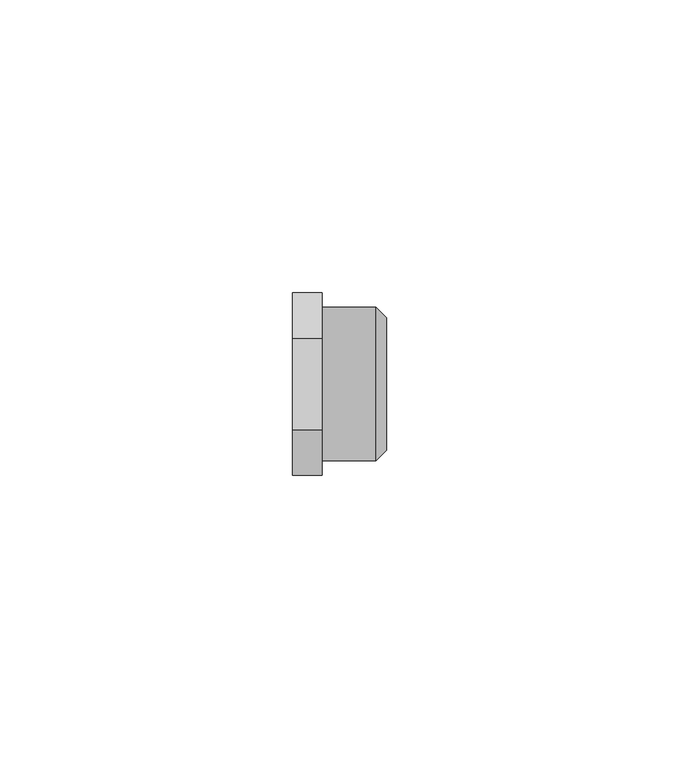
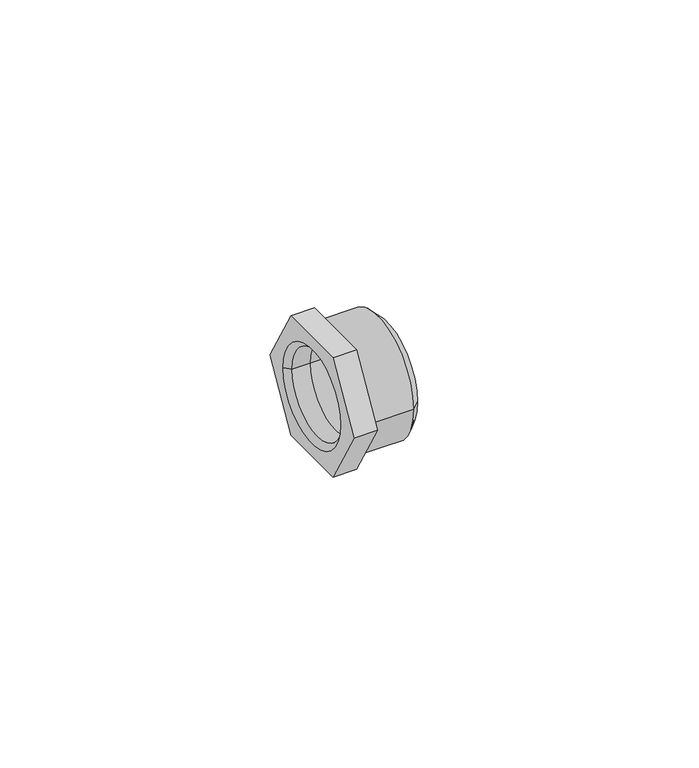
"""IFC4 building model written with IfcOpenShell, lengths in millimetres: pipe fitting geometry, Astra - Redução Hexagonal - RH : Astra - Redução Hexagonal - RH."""

from ifc_helpers import new_model, si_unit, frame, origin, place, context, project, spatial, polyline, circle_curve, source, transform, mapped, element, save
from ifc_brep_helpers import plane_surface, cylinder_surface, revolved_surface, advanced_brep


def pipe_fitting_a693b1bf(model_context):
    return source(origin(), model_context, "Body", "AdvancedBrep", [
        advanced_brep(
        [(5.05, -15.5884573, 0.0), (5.05, -7.7942286, -13.5), (5.05, 7.7942286, -13.5), (5.05, 15.5884573, 0.0), (5.05, 7.7942286, 13.5), (5.05, -7.7942286, 13.5), (5.05, 13.075, 0.0), (5.05, -13.075, 0.0), (0.0, -15.5884573, 0.0), (0.0, -7.7942286, 13.5), (0.0, 7.7942286, 13.5), (0.0, 15.5884573, 0.0), (0.0, 7.7942286, -13.5), (0.0, -7.7942286, -13.5), (0.0, -10.65, 0.0), (0.0, 10.65, 0.0), (1.2, -9.45, 0.0), (5.05, -9.45, 0.0), (5.05, 9.45, 0.0), (1.2, 9.45, 0.0), (14.2748382, -13.075, 0.0), (14.2748382, 13.075, 0.0), (16.05, 11.2998382, 0.0), (16.05, -11.2998382, 0.0), (16.05, -9.45, 0.0), (16.05, 9.45, 0.0)],
        [
            (0, 1),
            (1, 2),
            (2, 3),
            (3, 4),
            (4, 5),
            (5, 0),
            (6, 7, circle_curve(frame((5.05, 0.0, 0.0), z_axis=(-1.0, 0.0, 0.0), x_axis=(0.0, 1.0, 0.0)), 13.075)),
            (7, 6, circle_curve(frame((5.05, 0.0, 0.0), z_axis=(-1.0, 0.0, 0.0), x_axis=(0.0, 1.0, 0.0)), 13.075)),
            (8, 9),
            (9, 10),
            (10, 11),
            (11, 12),
            (12, 13),
            (13, 8),
            (14, 15, circle_curve(frame((0.0, 0.0, 0.0), z_axis=(1.0, 0.0, 0.0), x_axis=(0.0, 1.0, 0.0)), 10.65)),
            (15, 14, circle_curve(frame((0.0, 0.0, 0.0), z_axis=(1.0, 0.0, 0.0), x_axis=(0.0, 1.0, 0.0)), 10.65)),
            (0, 8),
            (13, 1),
            (12, 2),
            (11, 3),
            (10, 4),
            (9, 5),
            (16, 17),
            (17, 18, circle_curve(frame((5.05, 0.0, 0.0), z_axis=(1.0, 0.0, 0.0), x_axis=(0.0, 1.0, 0.0)), 9.45)),
            (18, 19),
            (19, 16, circle_curve(frame((1.2, 0.0, 0.0), z_axis=(-1.0, 0.0, 0.0), x_axis=(0.0, 1.0, 0.0)), 9.45)),
            (16, 19, circle_curve(frame((1.2, 0.0, 0.0), z_axis=(-1.0, 0.0, 0.0), x_axis=(0.0, 1.0, 0.0)), 9.45)),
            (18, 17, circle_curve(frame((5.05, 0.0, 0.0), z_axis=(1.0, 0.0, 0.0), x_axis=(0.0, 1.0, 0.0)), 9.45)),
            (19, 15),
            (14, 16),
            (20, 21, circle_curve(frame((14.2748382, 0.0, 0.0), z_axis=(1.0, 0.0, 0.0), x_axis=(0.0, 1.0, 0.0)), 13.075)),
            (21, 22),
            (22, 23, circle_curve(frame((16.05, 0.0, 0.0), z_axis=(-1.0, 0.0, 0.0), x_axis=(0.0, 1.0, 0.0)), 11.2998382)),
            (23, 20),
            (21, 20, circle_curve(frame((14.2748382, 0.0, 0.0), z_axis=(1.0, 0.0, 0.0), x_axis=(0.0, 1.0, 0.0)), 13.075)),
            (23, 22, circle_curve(frame((16.05, 0.0, 0.0), z_axis=(-1.0, 0.0, 0.0), x_axis=(0.0, 1.0, 0.0)), 11.2998382)),
            (20, 7),
            (6, 21),
            (24, 25, circle_curve(frame((16.05, 0.0, 0.0), z_axis=(1.0, 0.0, 0.0), x_axis=(0.0, 1.0, 0.0)), 9.45)),
            (25, 18),
            (17, 24),
            (25, 24, circle_curve(frame((16.05, 0.0, 0.0), z_axis=(1.0, 0.0, 0.0), x_axis=(0.0, 1.0, 0.0)), 9.45)),
            (22, 25),
            (24, 23),
        ],
        [
            plane_surface(frame((5.05, -15.5884573, 0.0), z_axis=(1.0000000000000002, 0.0, 0.0), x_axis=(0.0, 0.5000000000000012, -0.866025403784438))),
            plane_surface(frame((0.0, -15.5884573, 0.0), z_axis=(-1.0000000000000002, 0.0, 0.0), x_axis=(0.0, -0.5000000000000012, 0.866025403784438))),
            plane_surface(frame((5.05, -15.5884573, 0.0), z_axis=(0.0, -0.866025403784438, -0.5000000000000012), x_axis=(-1.0, 0.0, 0.0))),
            plane_surface(frame((5.05, -7.7942286, -13.5), z_axis=(0.0, 0.0, -1.0), x_axis=(-1.0, 0.0, 0.0))),
            plane_surface(frame((5.05, 7.7942286, -13.5), z_axis=(0.0, 0.8660254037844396, -0.4999999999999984), x_axis=(-1.0, 0.0, 0.0))),
            plane_surface(frame((5.05, 15.5884573, 0.0), z_axis=(0.0, 0.8660254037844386, 0.5000000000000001), x_axis=(-1.0, 0.0, 0.0))),
            plane_surface(frame((5.05, 7.7942286, 13.5), z_axis=(0.0, 0.0, 1.0), x_axis=(-1.0, 0.0, 0.0))),
            plane_surface(frame((5.05, -7.7942286, 13.5), z_axis=(0.0, -0.8660254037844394, 0.4999999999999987), x_axis=(-1.0, 0.0, 0.0))),
            revolved_surface(polyline([(1.2, 9.45, 0.0), (5.05, 9.45, 0.0)]), (0.0, 0.0, 0.0), (-1.0, 0.0, 0.0)),
            revolved_surface(polyline([(0.0, 10.65, 0.0), (1.2, 9.45, 0.0)]), (0.0, 0.0, 0.0), (-1.0, 0.0, 0.0)),
            revolved_surface(polyline([(16.05, 11.2998382, 0.0), (14.2748382, 13.075, 0.0)]), (0.0, 0.0, 0.0), (-1.0, 0.0, 0.0)),
            cylinder_surface(frame((0.0, 0.0, 0.0), z_axis=(-1.0, 0.0, 0.0), x_axis=(0.0, 1.0, 0.0)), 13.075),
            revolved_surface(polyline([(5.05, 9.45, 0.0), (16.05, 9.45, 0.0)]), (0.0, 0.0, 0.0), (-1.0, 0.0, 0.0)),
            plane_surface(frame((16.05, 0.0, 0.0), z_axis=(1.0, 0.0, 0.0), x_axis=(0.0, 1.0, 0.0))),
        ],
        [
            (0, [[1, 2, 3, 4, 5, 6], [7, 8]]),
            (1, [[9, 10, 11, 12, 13, 14], [15, 16]]),
            (2, [[-1, 17, -14, 18]]),
            (3, [[-2, -18, -13, 19]]),
            (4, [[-3, -19, -12, 20]]),
            (5, [[-4, -20, -11, 21]]),
            (6, [[-5, -21, -10, 22]]),
            (7, [[-6, -22, -9, -17]]),
            (8, [[23, 24, 25, 26]]),
            (8, [[-23, 27, -25, 28]]),
            (9, [[-26, 29, -15, 30]]),
            (9, [[-27, -30, -16, -29]]),
            (10, [[31, 32, 33, 34]]),
            (10, [[-32, 35, -34, 36]]),
            (11, [[-31, 37, -7, 38]]),
            (11, [[-35, -38, -8, -37]]),
            (12, [[39, 40, -24, 41]]),
            (12, [[-40, 42, -41, -28]]),
            (13, [[-33, 43, -39, 44]]),
            (13, [[-36, -44, -42, -43]]),
        ],
    ),
    ])


if __name__ == "__main__":
    model = new_model("IFC4")
    model_context = context("Model", 3, world=origin())
    ifc_project = project(units=[si_unit("LENGTHUNIT", "METRE", prefix="MILLI")], contexts=[model_context])
    site = spatial("IfcSite", under=ifc_project)
    building = spatial("IfcBuilding", under=site)
    placement = place(None, origin())
    pipe_fitting_shape = pipe_fitting_a693b1bf(model_context)
    element("IfcPipeFitting", 1, ObjectType="Astra - Redução Hexagonal - RH : Astra - Redução Hexagonal - RH", at=placement, inside=building, context=model_context, shape_type="MappedRepresentation", body=[
        mapped(pipe_fitting_shape, transform((0.0, 0.0, 0.0), x_axis=(1.0, 0.0, 0.0), y_axis=(0.0, 1.0, 0.0), z_axis=(0.0, 0.0, 1.0))),
    ])
    save(model, "model.ifc")
